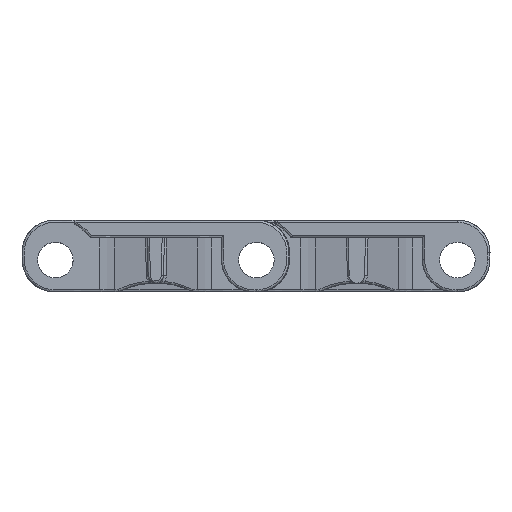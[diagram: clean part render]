
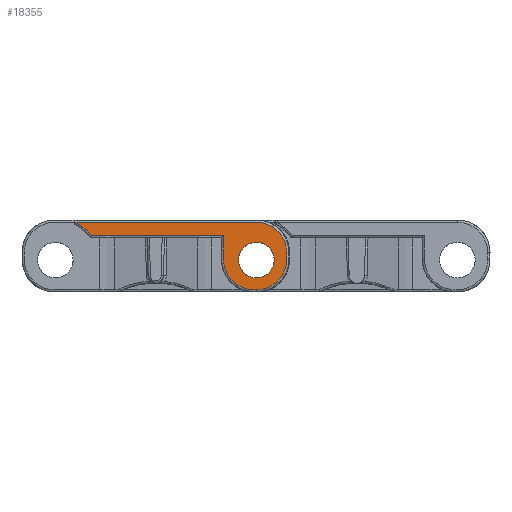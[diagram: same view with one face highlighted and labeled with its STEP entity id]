
A CAD part, left-side view. The second image highlights one B-rep face of the part: STEP entity #18355.
In plain terms, the highlighted planar face has unit normal (-1, 0, -0.004).
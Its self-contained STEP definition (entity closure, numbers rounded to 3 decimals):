
#365=FACE_BOUND('',#27130,.T.);
#366=FACE_BOUND('',#27131,.T.);
#1788=PLANE('',#65444);
#5474=LINE('',#131022,#10028);
#5475=LINE('',#131030,#10030);
#5476=LINE('',#131044,#10031);
#5477=LINE('',#131058,#10032);
#5478=LINE('',#131072,#10033);
#10028=VECTOR('',#71162,1.);
#10030=VECTOR('',#71164,1.);
#10031=VECTOR('',#71165,1.);
#10032=VECTOR('',#71166,1.);
#10033=VECTOR('',#71167,1.);
#14474=(
BOUNDED_CURVE()
B_SPLINE_CURVE(3,(#131073,#131074,#131075,#131076),.UNSPECIFIED.,.F.,.F.)
B_SPLINE_CURVE_WITH_KNOTS((4,4),(0.,1.),.UNSPECIFIED.)
CURVE()
GEOMETRIC_REPRESENTATION_ITEM()
RATIONAL_B_SPLINE_CURVE((1.,0.333,0.333,1.))
REPRESENTATION_ITEM('')
);
#14475=(
BOUNDED_CURVE()
B_SPLINE_CURVE(3,(#131079,#131080,#131081,#131082),.UNSPECIFIED.,.F.,.F.)
B_SPLINE_CURVE_WITH_KNOTS((4,4),(0.,1.),.UNSPECIFIED.)
CURVE()
GEOMETRIC_REPRESENTATION_ITEM()
RATIONAL_B_SPLINE_CURVE((1.,0.333,0.333,1.))
REPRESENTATION_ITEM('')
);
#18355=ADVANCED_FACE('',(#365,#366),#1788,.T.);
#27130=EDGE_LOOP('',(#40093,#40094,#40095,#40096,#40097,#40098,#40099,#40100,
#40101));
#27131=EDGE_LOOP('',(#40102,#40103));
#40093=ORIENTED_EDGE('',*,*,#58832,.T.);
#40094=ORIENTED_EDGE('',*,*,#58833,.T.);
#40095=ORIENTED_EDGE('',*,*,#58834,.F.);
#40096=ORIENTED_EDGE('',*,*,#58835,.F.);
#40097=ORIENTED_EDGE('',*,*,#58836,.F.);
#40098=ORIENTED_EDGE('',*,*,#58837,.F.);
#40099=ORIENTED_EDGE('',*,*,#58838,.F.);
#40100=ORIENTED_EDGE('',*,*,#58839,.F.);
#40101=ORIENTED_EDGE('',*,*,#58451,.F.);
#40102=ORIENTED_EDGE('',*,*,#58840,.F.);
#40103=ORIENTED_EDGE('',*,*,#58841,.F.);
#50386=VERTEX_POINT('',#123117);
#50704=VERTEX_POINT('',#127759);
#50954=VERTEX_POINT('',#131021);
#50955=VERTEX_POINT('',#131031);
#50956=VERTEX_POINT('',#131043);
#50957=VERTEX_POINT('',#131045);
#50958=VERTEX_POINT('',#131057);
#50959=VERTEX_POINT('',#131059);
#50960=VERTEX_POINT('',#131071);
#50961=VERTEX_POINT('',#131077);
#50962=VERTEX_POINT('',#131078);
#58451=EDGE_CURVE('',#50704,#50386,#63491,.T.);
#58832=EDGE_CURVE('',#50704,#50954,#5474,.T.);
#58833=EDGE_CURVE('',#50954,#50955,#5475,.T.);
#58834=EDGE_CURVE('',#50956,#50955,#63636,.T.);
#58835=EDGE_CURVE('',#50957,#50956,#5476,.T.);
#58836=EDGE_CURVE('',#50958,#50957,#63637,.T.);
#58837=EDGE_CURVE('',#50959,#50958,#5477,.T.);
#58838=EDGE_CURVE('',#50960,#50959,#63638,.T.);
#58839=EDGE_CURVE('',#50386,#50960,#5478,.T.);
#58840=EDGE_CURVE('',#50961,#50962,#14474,.T.);
#58841=EDGE_CURVE('',#50962,#50961,#14475,.T.);
#63491=B_SPLINE_CURVE_WITH_KNOTS('',3,(#127794,#127795,#127796,#127797,
#127798,#127799),.UNSPECIFIED.,.F.,.F.,(4,1,1,4),(0.,0.333,0.667,
1.),.UNSPECIFIED.);
#63636=B_SPLINE_CURVE_WITH_KNOTS('',3,(#131032,#131033,#131034,#131035,
#131036,#131037,#131038,#131039,#131040,#131041,#131042),.UNSPECIFIED.,
 .F.,.F.,(4,1,1,1,1,1,1,1,4),(0.,0.125,0.25,0.375,0.5,0.625,0.75,0.875,
1.),.UNSPECIFIED.);
#63637=B_SPLINE_CURVE_WITH_KNOTS('',3,(#131046,#131047,#131048,#131049,
#131050,#131051,#131052,#131053,#131054,#131055,#131056),.UNSPECIFIED.,
 .F.,.F.,(4,1,1,1,1,1,1,1,4),(0.,0.125,0.25,0.375,0.5,0.625,0.75,0.875,
1.),.UNSPECIFIED.);
#63638=B_SPLINE_CURVE_WITH_KNOTS('',3,(#131060,#131061,#131062,#131063,
#131064,#131065,#131066,#131067,#131068,#131069,#131070),.UNSPECIFIED.,
 .F.,.F.,(4,1,1,1,1,1,1,1,4),(0.,0.125,0.25,0.375,0.5,0.625,0.75,0.875,
1.),.UNSPECIFIED.);
#65444=AXIS2_PLACEMENT_3D('',#131083,#71168,#71169);
#71162=DIRECTION('',(0.,-1.,0.));
#71164=DIRECTION('',(0.004,0.,-1.));
#71165=DIRECTION('',(0.,1.,0.));
#71166=DIRECTION('',(0.004,0.,-1.));
#71167=DIRECTION('',(0.,-1.,0.));
#71168=DIRECTION('',(-1.,0.,-0.004));
#71169=DIRECTION('',(0.,-1.,0.));
#123117=CARTESIAN_POINT('',(0.619,37.85,-0.326));
#127759=CARTESIAN_POINT('',(0.625,35.782,-2.101));
#127794=CARTESIAN_POINT('',(0.625,35.782,-2.101));
#127795=CARTESIAN_POINT('',(0.624,35.959,-1.879));
#127796=CARTESIAN_POINT('',(0.623,36.345,-1.448));
#127797=CARTESIAN_POINT('',(0.621,37.041,-0.839));
#127798=CARTESIAN_POINT('',(0.619,37.569,-0.488));
#127799=CARTESIAN_POINT('',(0.619,37.85,-0.326));
#131021=CARTESIAN_POINT('',(0.625,17.971,-2.101));
#131022=CARTESIAN_POINT('',(0.625,35.782,-2.101));
#131030=CARTESIAN_POINT('',(0.625,17.971,-2.101));
#131031=CARTESIAN_POINT('',(0.636,17.971,-5.301));
#131032=CARTESIAN_POINT('',(0.651,13.871,-9.401));
#131033=CARTESIAN_POINT('',(0.651,14.142,-9.401));
#131034=CARTESIAN_POINT('',(0.651,14.671,-9.349));
#131035=CARTESIAN_POINT('',(0.65,15.448,-9.115));
#131036=CARTESIAN_POINT('',(0.649,16.162,-8.733));
#131037=CARTESIAN_POINT('',(0.647,16.789,-8.219));
#131038=CARTESIAN_POINT('',(0.644,17.303,-7.592));
#131039=CARTESIAN_POINT('',(0.642,17.685,-6.878));
#131040=CARTESIAN_POINT('',(0.639,17.919,-6.101));
#131041=CARTESIAN_POINT('',(0.637,17.971,-5.571));
#131042=CARTESIAN_POINT('',(0.636,17.971,-5.301));
#131043=CARTESIAN_POINT('',(0.651,13.871,-9.401));
#131044=CARTESIAN_POINT('',(0.651,13.55,-9.401));
#131045=CARTESIAN_POINT('',(0.651,13.55,-9.401));
#131046=CARTESIAN_POINT('',(0.636,9.45,-5.301));
#131047=CARTESIAN_POINT('',(0.637,9.45,-5.571));
#131048=CARTESIAN_POINT('',(0.639,9.502,-6.101));
#131049=CARTESIAN_POINT('',(0.642,9.737,-6.878));
#131050=CARTESIAN_POINT('',(0.644,10.118,-7.592));
#131051=CARTESIAN_POINT('',(0.647,10.632,-8.219));
#131052=CARTESIAN_POINT('',(0.649,11.259,-8.733));
#131053=CARTESIAN_POINT('',(0.65,11.973,-9.114));
#131054=CARTESIAN_POINT('',(0.651,12.75,-9.349));
#131055=CARTESIAN_POINT('',(0.651,13.28,-9.401));
#131056=CARTESIAN_POINT('',(0.651,13.55,-9.401));
#131057=CARTESIAN_POINT('',(0.636,9.45,-5.301));
#131058=CARTESIAN_POINT('',(0.633,9.45,-4.401));
#131059=CARTESIAN_POINT('',(0.633,9.45,-4.401));
#131060=CARTESIAN_POINT('',(0.619,13.55,-0.301));
#131061=CARTESIAN_POINT('',(0.619,13.28,-0.301));
#131062=CARTESIAN_POINT('',(0.619,12.75,-0.353));
#131063=CARTESIAN_POINT('',(0.62,11.973,-0.588));
#131064=CARTESIAN_POINT('',(0.621,11.259,-0.969));
#131065=CARTESIAN_POINT('',(0.623,10.632,-1.483));
#131066=CARTESIAN_POINT('',(0.625,10.118,-2.11));
#131067=CARTESIAN_POINT('',(0.628,9.737,-2.824));
#131068=CARTESIAN_POINT('',(0.63,9.502,-3.601));
#131069=CARTESIAN_POINT('',(0.632,9.45,-4.131));
#131070=CARTESIAN_POINT('',(0.633,9.45,-4.401));
#131071=CARTESIAN_POINT('',(0.619,13.55,-0.301));
#131072=CARTESIAN_POINT('',(0.619,37.85,-0.301));
#131073=CARTESIAN_POINT('',(0.637,11.15,-5.4));
#131074=CARTESIAN_POINT('',(0.62,11.15,-0.6));
#131075=CARTESIAN_POINT('',(0.62,15.95,-0.6));
#131076=CARTESIAN_POINT('',(0.637,15.95,-5.4));
#131077=CARTESIAN_POINT('',(0.637,11.15,-5.4));
#131078=CARTESIAN_POINT('',(0.637,15.95,-5.4));
#131079=CARTESIAN_POINT('',(0.637,15.95,-5.4));
#131080=CARTESIAN_POINT('',(0.654,15.95,-10.2));
#131081=CARTESIAN_POINT('',(0.654,11.15,-10.2));
#131082=CARTESIAN_POINT('',(0.637,11.15,-5.4));
#131083=CARTESIAN_POINT('',(0.618,5.828,0.));
